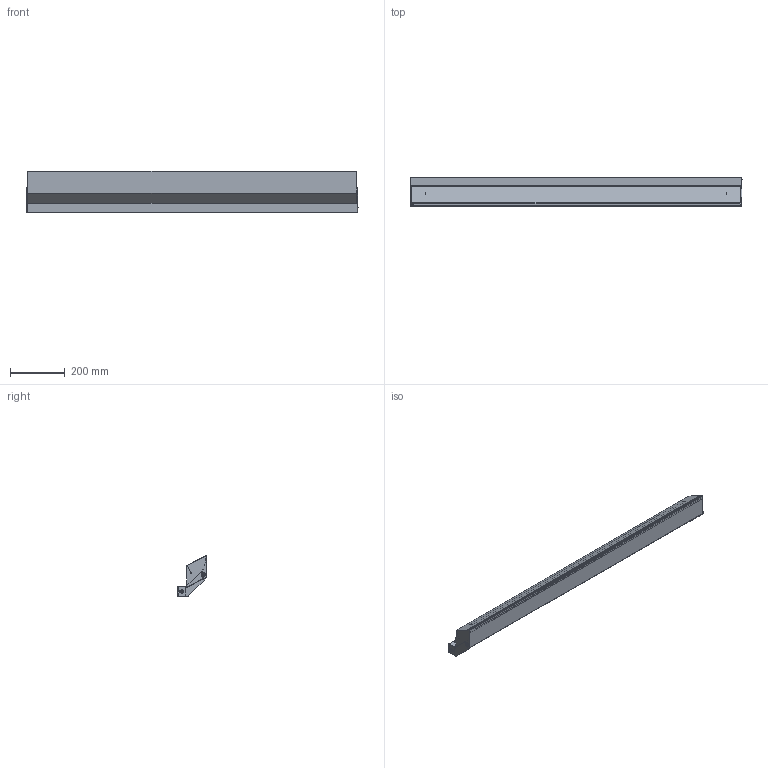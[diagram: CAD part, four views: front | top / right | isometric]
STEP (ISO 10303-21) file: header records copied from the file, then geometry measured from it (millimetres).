
FILE_DESCRIPTION(/* description */ (''),/* implementation_level */ '2;1');
FILE_NAME(/* name */ 'STRIPE WALL-CEILING ROTATING 120X8.stp',/* time_stamp */ '2025-03-05T08:15:06+01:00',/* author */ ('marco.prandina'),/* organization */ (''),/* preprocessor_version */ 'ST-DEVELOPER v20',/* originating_system */ 'Autodesk Inventor 2025',/* authorisation */ '');
FILE_SCHEMA (('AUTOMOTIVE_DESIGN { 1 0 10303 214 3 1 1 }'));
Length unit declared in the file: millimetre
Products named in the file (26): 503C105-D; 503C008; 503C006-D; 503C006_001-D; 503C006_002; PERNO FILETTATO A SALDARE M4X8; 503C006_003; 503C007; 503C007_001; 503C007_003; 503C007_002; 503C009-D; 503C009_001-D; 503C009_002-D; 503C009_003; 503C009_004; 503C009_007-D; 503C010-D; 503C018; 3,2100; RONDELLA PIANA PER VITE M8 UNI6592 A2; RONDELLA M4 UNI6592 DIN125A ISO7089 INOX A2; DADO 4MA; B002; DADO (METRICO) STEAB 5339 M10X1 H3; VITE TBIE M3X8 UNI ISO 7380
Assembly tree (30 placements, depth 3):
  503C105-D
    503C008
    503C006-D
      503C006_001-D
      503C006_002
      PERNO FILETTATO A SALDARE M4X8
      503C006_003
    503C007
      503C007_001
      503C007_003
      503C007_002
    503C009-D
      503C009_001-D
      503C009_002-D
      503C009_003
      503C009_004
      503C009_007-D
    503C010-D
    503C018  x4
    3,2100  x2
    RONDELLA PIANA PER VITE M8 UNI6592 A2  x2
    RONDELLA M4 UNI6592 DIN125A ISO7089 INOX A2
    DADO 4MA
    B002
    DADO (METRICO) STEAB 5339 M10X1 H3
    VITE TBIE M3X8 UNI ISO 7380
Bounding box: 1211.15 x 105.69 x 150.55 mm (x, y, z)
Volume: 742976 mm3; surface area: 1479535 mm2
Topology: 29 solids, 29 shells, 498 faces, 1148 edges, 714 vertices
Faces by surface type: plane 283, cylinder 137, cone 53, torus 20, bspline 5
Full cylindrical faces by diameter (mm): 0.65 x1, 2.459 x1, 3 x4, 3.2 x1, 3.242 x1, 4 x1, 4.2 x1, 4.3 x1, 5 x2, 5.5 x2, 5.7 x1, 6.647 x2, 7 x1, 8 x2, 8.2 x2, 8.4 x6, 8.5 x3, 9 x1, 10 x2, 12 x1, 14 x4, 15 x3, 17 x2
Entity records: 14491 total; most frequent: CARTESIAN_POINT 2784, DIRECTION 2301, ORIENTED_EDGE 2100, EDGE_CURVE 1050, AXIS2_PLACEMENT_3D 831, VERTEX_POINT 654, LINE 639, VECTOR 639
